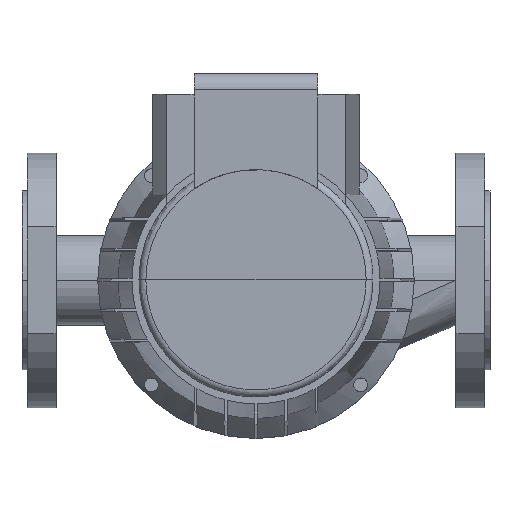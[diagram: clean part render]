
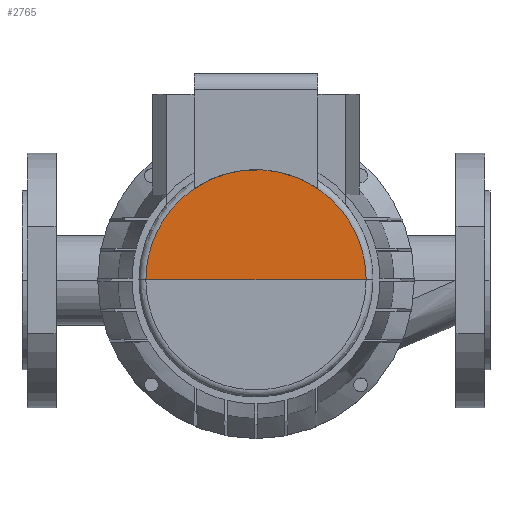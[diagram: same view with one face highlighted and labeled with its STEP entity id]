
A CAD part, top view. The second image highlights one B-rep face of the part: STEP entity #2765.
In plain terms, the highlighted planar face has unit normal (0, 0, 1).
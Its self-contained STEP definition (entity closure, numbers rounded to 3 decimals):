
#101=B_SPLINE_CURVE_WITH_KNOTS('',3,(#4302,#4303,#4304,#4305,#4306,#4307,
#4308,#4309,#4310,#4311,#4312),.UNSPECIFIED.,.F.,.F.,(4,1,1,1,1,1,1,1,4),
(0.,0.125,0.25,0.375,0.5,0.625,0.75,0.875,1.),.UNSPECIFIED.);
#198=PLANE('',#2979);
#313=FACE_OUTER_BOUND('',#492,.T.);
#492=EDGE_LOOP('',(#1924,#1925));
#668=LINE('',#4300,#877);
#877=VECTOR('',#3278,304.8);
#1196=VERTEX_POINT('',#4287);
#1197=VERTEX_POINT('',#4288);
#1473=EDGE_CURVE('',#1197,#1196,#668,.T.);
#1474=EDGE_CURVE('',#1197,#1196,#101,.T.);
#1924=ORIENTED_EDGE('',*,*,#1474,.F.);
#1925=ORIENTED_EDGE('',*,*,#1473,.T.);
#2765=ADVANCED_FACE('',(#313),#198,.T.);
#2979=AXIS2_PLACEMENT_3D('',#4301,#3279,#3280);
#3278=DIRECTION('',(1.,0.,0.));
#3279=DIRECTION('center_axis',(0.,0.,1.));
#3280=DIRECTION('ref_axis',(1.,0.,0.));
#4287=CARTESIAN_POINT('',(26448.617,-38981.239,256.));
#4288=CARTESIAN_POINT('',(26288.617,-38981.239,256.));
#4300=CARTESIAN_POINT('',(26368.617,-38981.239,256.));
#4301=CARTESIAN_POINT('Origin',(26368.617,-38981.239,256.));
#4302=CARTESIAN_POINT('Ctrl Pts',(26288.617,-38981.239,256.));
#4303=CARTESIAN_POINT('Ctrl Pts',(26288.511,-38970.725,256.));
#4304=CARTESIAN_POINT('Ctrl Pts',(26292.831,-38949.848,256.));
#4305=CARTESIAN_POINT('Ctrl Pts',(26310.562,-38923.193,256.));
#4306=CARTESIAN_POINT('Ctrl Pts',(26337.208,-38905.406,256.));
#4307=CARTESIAN_POINT('Ctrl Pts',(26368.617,-38899.156,256.));
#4308=CARTESIAN_POINT('Ctrl Pts',(26400.025,-38905.406,256.));
#4309=CARTESIAN_POINT('Ctrl Pts',(26426.671,-38923.193,256.));
#4310=CARTESIAN_POINT('Ctrl Pts',(26444.402,-38949.848,256.));
#4311=CARTESIAN_POINT('Ctrl Pts',(26448.722,-38970.725,256.));
#4312=CARTESIAN_POINT('Ctrl Pts',(26448.617,-38981.239,256.));
